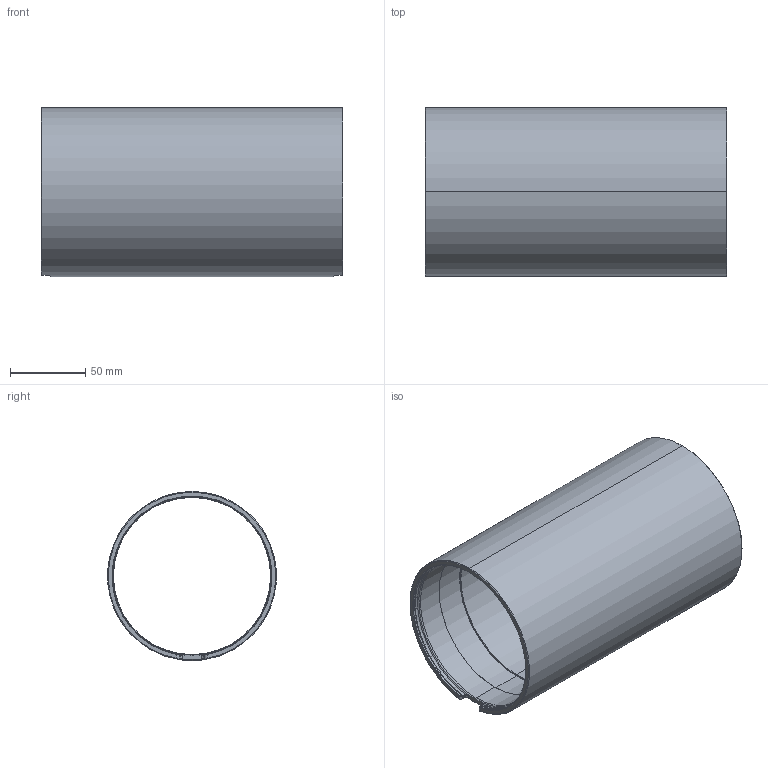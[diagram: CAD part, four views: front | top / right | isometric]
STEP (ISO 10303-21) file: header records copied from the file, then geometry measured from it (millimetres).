
FILE_DESCRIPTION (( 'STEP AP214' ), '1' );
FILE_NAME ('BR-100195-200_RevB.STEP', '2024-09-16T23:18:43', ( '' ), ( '' ), 'SwSTEP 2.0', 'SolidWorks 2024', '' );
FILE_SCHEMA (( 'AUTOMOTIVE_DESIGN' ));
Length unit declared in the file: millimetre
Products named in the file (1): BR-100195-200_RevB
Bounding box: 200 x 111.63 x 112 mm (x, y, z)
Volume: 248742.8 mm3; surface area: 139433.7 mm2
Topology: 1 solids, 1 shells, 94 faces, 240 edges, 150 vertices
Faces by surface type: cylinder 24, bspline 24, cone 18, plane 16, torus 12
Entity records: 5964 total; most frequent: CARTESIAN_POINT 3914, ORIENTED_EDGE 480, DIRECTION 342, EDGE_CURVE 240, VERTEX_POINT 150, AXIS2_PLACEMENT_3D 147, B_SPLINE_CURVE_WITH_KNOTS 112, EDGE_LOOP 98
